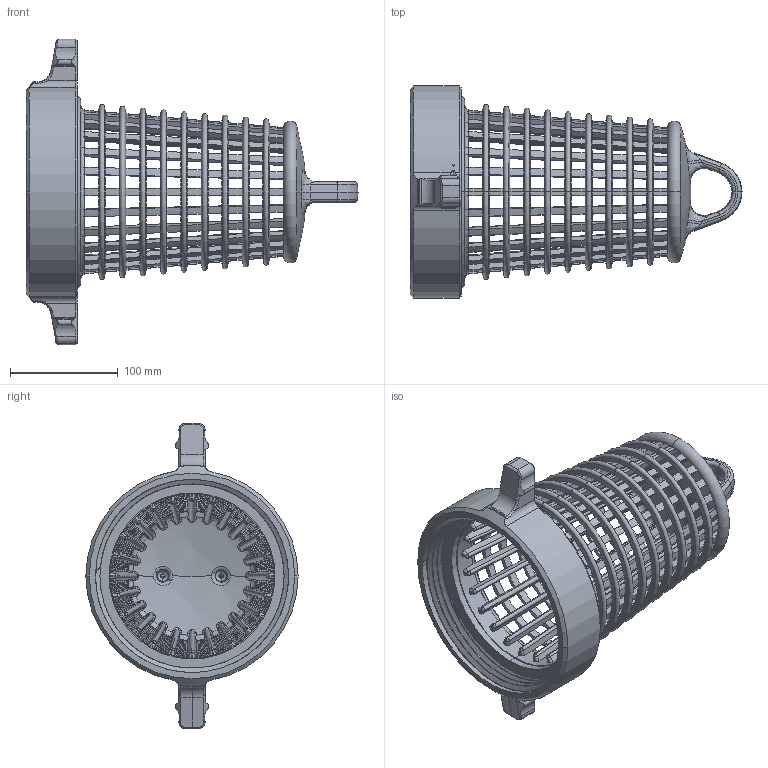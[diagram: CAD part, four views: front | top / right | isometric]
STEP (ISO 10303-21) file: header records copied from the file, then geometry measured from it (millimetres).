
FILE_DESCRIPTION (( 'STEP AP203' ), '1' );
FILE_NAME ('A02HNX.STEP', '2014-08-22T21:40:53', ( '' ), ( '' ), 'SwSTEP 2.0', 'SolidWorks 2014', '' );
FILE_SCHEMA (( 'CONFIG_CONTROL_DESIGN' ));
Length unit declared in the file: inch
Products named in the file (1): A02HNX
Bounding box: 308.01 x 196.85 x 283.46 mm (x, y, z)
Surface area: 351355.2 mm2 (no closed solid volume)
Topology: 0 solids, 3 shells, 1066 faces, 3785 edges, 2150 vertices
Faces by surface type: cone 566, cylinder 145, plane 114, torus 105, bspline 86, sphere 50
Entity records: 52329 total; most frequent: CARTESIAN_POINT 22524, ORIENTED_EDGE 6998, DIRECTION 5785, EDGE_CURVE 3785, AXIS2_PLACEMENT_3D 2698, VERTEX_POINT 2150, CIRCLE 1717, B_SPLINE_CURVE_WITH_KNOTS 1592
